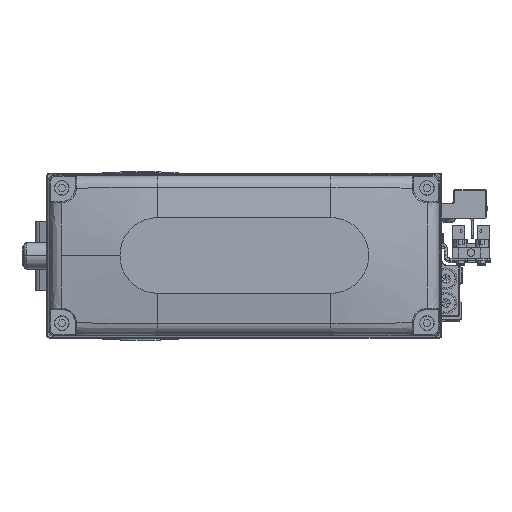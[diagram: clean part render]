
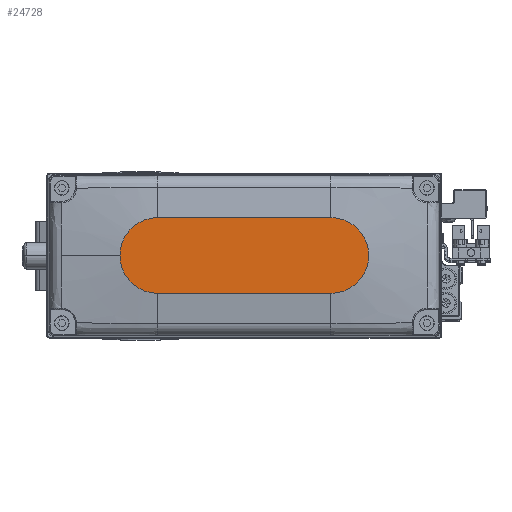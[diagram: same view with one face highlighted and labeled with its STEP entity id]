
A CAD part, top view. The second image highlights one B-rep face of the part: STEP entity #24728.
In plain terms, the highlighted planar face has unit normal (0, 0, 1).
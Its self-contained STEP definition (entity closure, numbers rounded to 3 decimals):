
#715 = CIRCLE ( 'NONE', #26070, 14. ) ;
#1486 = FACE_OUTER_BOUND ( 'NONE', #7048, .T. ) ;
#3269 = CARTESIAN_POINT ( 'NONE',  ( -32., 14., 35. ) ) ;
#4190 = LINE ( 'NONE', #17999, #35586 ) ;
#4335 = ORIENTED_EDGE ( 'NONE', *, *, #8661, .T. ) ;
#6262 = VERTEX_POINT ( 'NONE', #41747 ) ;
#6454 = CIRCLE ( 'NONE', #31820, 14. ) ;
#7048 = EDGE_LOOP ( 'NONE', ( #12728, #35588, #23481, #37841, #4335 ) ) ;
#7147 = VERTEX_POINT ( 'NONE', #17559 ) ;
#7573 = CIRCLE ( 'NONE', #32943, 14. ) ;
#8661 = EDGE_CURVE ( 'NONE', #7147, #6262, #7573, .T. ) ;
#10122 = DIRECTION ( 'NONE',  ( 0., 0., 1. ) ) ;
#11522 = DIRECTION ( 'NONE',  ( 1., 0., 0. ) ) ;
#11942 = DIRECTION ( 'NONE',  ( 1., 0., 0. ) ) ;
#12728 = ORIENTED_EDGE ( 'NONE', *, *, #42712, .T. ) ;
#12833 = CARTESIAN_POINT ( 'NONE',  ( 32., 0., 35. ) ) ;
#13819 = AXIS2_PLACEMENT_3D ( 'NONE', #29161, #43004, #11942 ) ;
#14157 = VECTOR ( 'NONE', #17087, 1000. ) ;
#15302 = PLANE ( 'NONE',  #13819 ) ;
#16560 = CARTESIAN_POINT ( 'NONE',  ( 32., -14., 35. ) ) ;
#17087 = DIRECTION ( 'NONE',  ( -1., 0., 0. ) ) ;
#17112 = EDGE_CURVE ( 'NONE', #25300, #7147, #6454, .T. ) ;
#17559 = CARTESIAN_POINT ( 'NONE',  ( 46., 0., 35. ) ) ;
#17999 = CARTESIAN_POINT ( 'NONE',  ( -32., -14., 35. ) ) ;
#23481 = ORIENTED_EDGE ( 'NONE', *, *, #25112, .T. ) ;
#23946 = DIRECTION ( 'NONE',  ( 1., 0., 0. ) ) ;
#24728 = ADVANCED_FACE ( 'NONE', ( #1486 ), #15302, .T. ) ;
#25112 = EDGE_CURVE ( 'NONE', #35858, #25300, #4190, .T. ) ;
#25300 = VERTEX_POINT ( 'NONE', #16560 ) ;
#26063 = CARTESIAN_POINT ( 'NONE',  ( -32., 14., 35. ) ) ;
#26070 = AXIS2_PLACEMENT_3D ( 'NONE', #41207, #10122, #23946 ) ;
#26673 = DIRECTION ( 'NONE',  ( 0., 0., 1. ) ) ;
#28769 = CARTESIAN_POINT ( 'NONE',  ( 32., 0., 35. ) ) ;
#29161 = CARTESIAN_POINT ( 'NONE',  ( 0., 0., 35. ) ) ;
#31820 = AXIS2_PLACEMENT_3D ( 'NONE', #12833, #26673, #40503 ) ;
#31853 = DIRECTION ( 'NONE',  ( 1., 0., 0. ) ) ;
#31983 = EDGE_CURVE ( 'NONE', #40808, #35858, #715, .T. ) ;
#32943 = AXIS2_PLACEMENT_3D ( 'NONE', #28769, #42603, #11522 ) ;
#34349 = LINE ( 'NONE', #3269, #14157 ) ;
#35586 = VECTOR ( 'NONE', #31853, 1000. ) ;
#35588 = ORIENTED_EDGE ( 'NONE', *, *, #31983, .T. ) ;
#35858 = VERTEX_POINT ( 'NONE', #39047 ) ;
#37841 = ORIENTED_EDGE ( 'NONE', *, *, #17112, .T. ) ;
#39047 = CARTESIAN_POINT ( 'NONE',  ( -32., -14., 35. ) ) ;
#40503 = DIRECTION ( 'NONE',  ( 1., 0., 0. ) ) ;
#40808 = VERTEX_POINT ( 'NONE', #26063 ) ;
#41207 = CARTESIAN_POINT ( 'NONE',  ( -32., 0., 35. ) ) ;
#41747 = CARTESIAN_POINT ( 'NONE',  ( 32., 14., 35. ) ) ;
#42603 = DIRECTION ( 'NONE',  ( 0., 0., 1. ) ) ;
#42712 = EDGE_CURVE ( 'NONE', #6262, #40808, #34349, .T. ) ;
#43004 = DIRECTION ( 'NONE',  ( 0., 0., 1. ) ) ;
